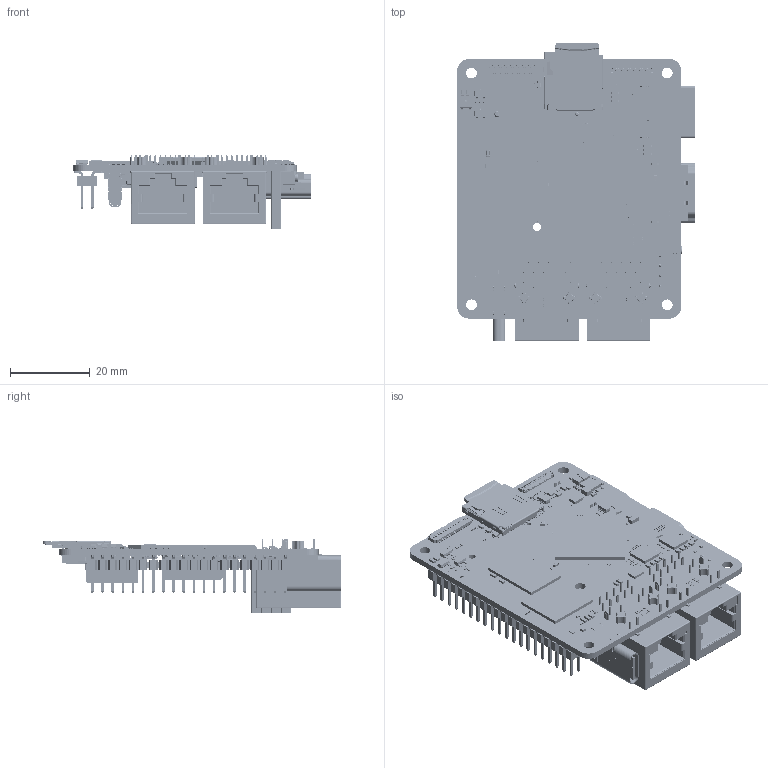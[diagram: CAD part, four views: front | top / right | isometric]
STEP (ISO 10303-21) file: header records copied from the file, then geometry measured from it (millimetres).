
FILE_DESCRIPTION((''),'2;1');
FILE_NAME('RS500_PCBA_3D_V1_0','2025-02-24T14:12:56',('admin'),(''),'CREO PARAMETRIC BY PTC INC, 2024401','CREO PARAMETRIC BY PTC INC, 2024401','');
FILE_SCHEMA(('AUTOMOTIVE_DESIGN { 1 0 10303 214 1 1 1 1 }'));
Products named in the file (1): RS500_PCBA_3D_V1_0
Bounding box: 59.45 x 74.6 x 18.45 mm (x, y, z)
Volume: 17934.3 mm3; surface area: 25237.9 mm2
Topology: 304 solids, 475 shells, 30098 faces, 69526 edges, 40133 vertices
Faces by surface type: plane 15563, cylinder 10340, sphere 2642, torus 1417, extrusion 67, bspline 54, cone 15
Entity records: 934388 total; most frequent: CARTESIAN_POINT 160945, DIRECTION 147043, ORIENTED_EDGE 137888, EDGE_CURVE 68944, AXIS2_PLACEMENT_3D 49795, VECTOR 47453, LINE 47386, VERTEX_POINT 40133
